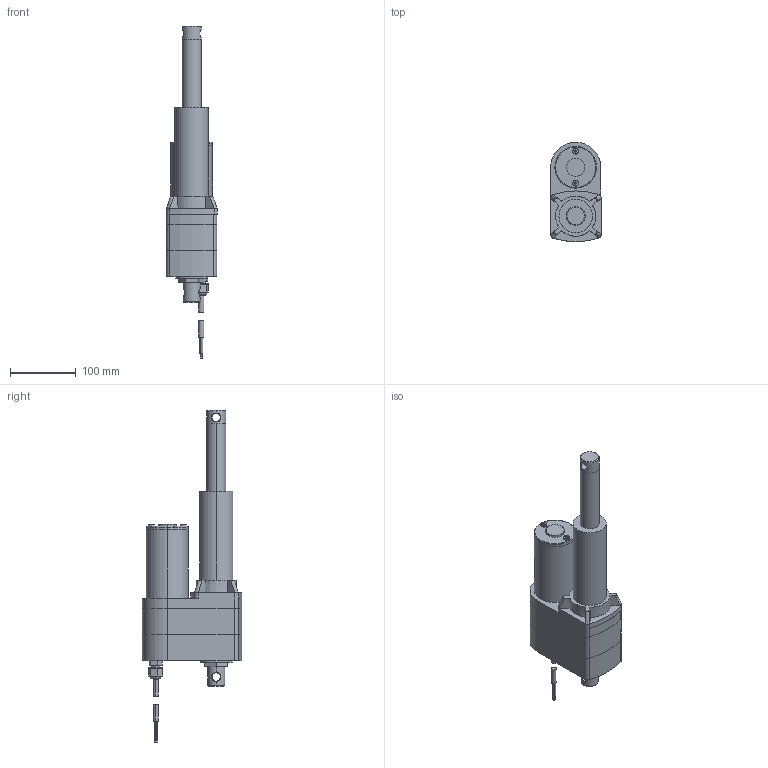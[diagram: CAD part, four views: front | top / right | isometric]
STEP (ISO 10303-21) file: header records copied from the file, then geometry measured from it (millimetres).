
FILE_DESCRIPTION (( 'STEP AP203' ), '1' );
FILE_NAME ('LA5_ACME_4_POT_x.step', '2021-02-24T15:19:54', ( '' ), ( '' ), 'SwSTEP 2.0', 'SolidWorks 2017', '' );
FILE_SCHEMA (( 'CONFIG_CONTROL_DESIGN' ));
Length unit declared in the file: millimetre
Products named in the file (1): LA5_ACME_4_POT_x
Bounding box: 77.22 x 151.29 x 505.41 mm (x, y, z)
Volume: 1870873.9 mm3; surface area: 192643.8 mm2
Topology: 14 solids, 14 shells, 333 faces, 716 edges, 446 vertices
Faces by surface type: plane 160, cylinder 113, cone 24, bspline 22, torus 10, sphere 4
Entity records: 11050 total; most frequent: CARTESIAN_POINT 3684, DIRECTION 1573, ORIENTED_EDGE 1432, EDGE_CURVE 716, AXIS2_PLACEMENT_3D 615, VERTEX_POINT 446, EDGE_LOOP 376, VECTOR 343
